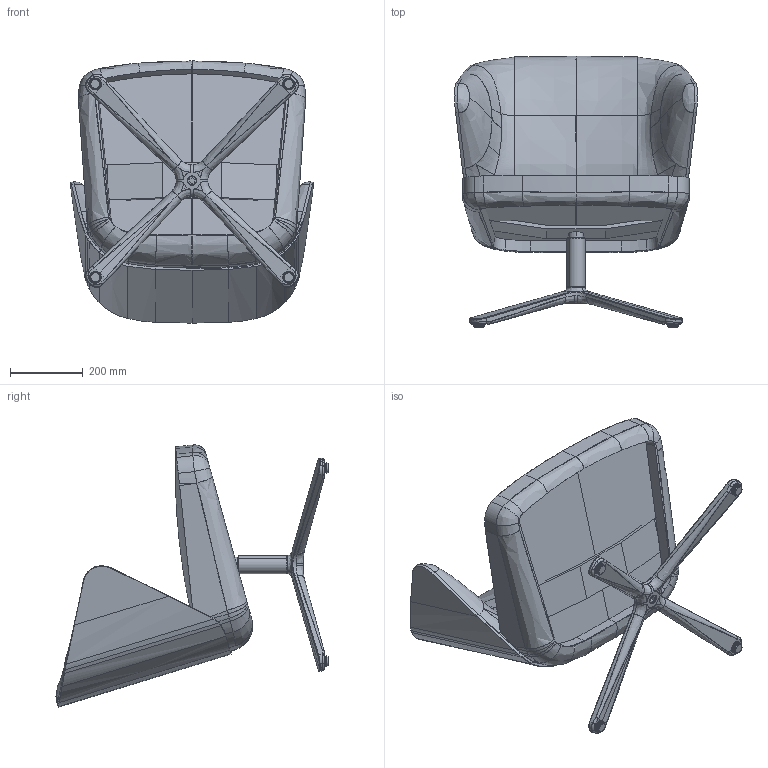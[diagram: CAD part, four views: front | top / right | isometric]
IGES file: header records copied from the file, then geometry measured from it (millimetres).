
Start section: SolidWorks IGES file using analytic representation for surfaces
Global section: file name: G:\Product Info\Back Me Up Salon & Lounge\3d\igs\BMU Salon draaivoet.IGS; native system: SolidWorks 2016; preprocessor: SolidWorks 2016; author: remko; date: 161213.181658; units: millimetre
Bounding box: 668.48 x 748.11 x 721.11 mm (x, y, z)
Surface area: 3409976.7 mm2 (no closed solid volume)
Topology: 0 solids, 0 shells, 572 faces, 9236 edges, 9235 vertices
Faces by surface type: bspline 328, revolution 244
